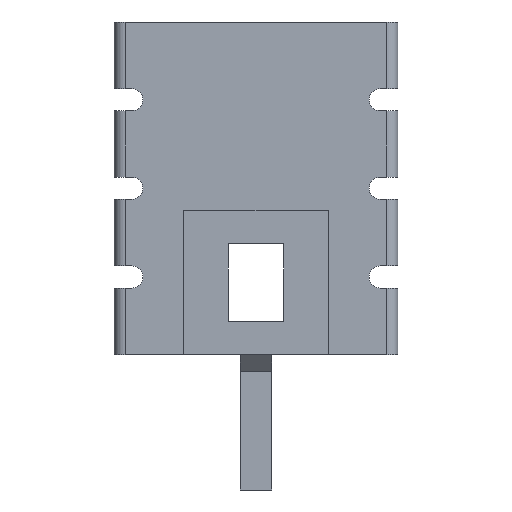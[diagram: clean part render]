
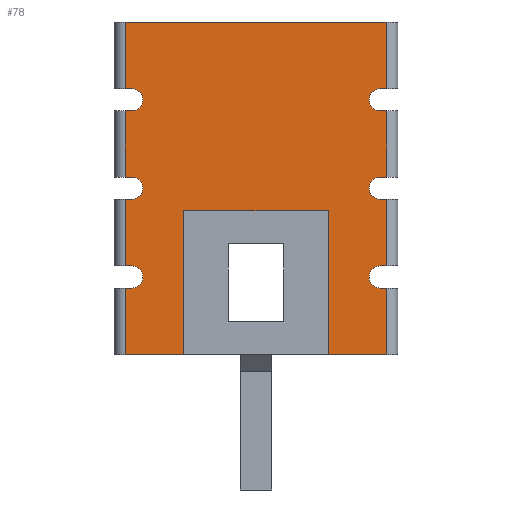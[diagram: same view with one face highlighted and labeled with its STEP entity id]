
A CAD part, front view. The second image highlights one B-rep face of the part: STEP entity #78.
In plain terms, the highlighted planar face has unit normal (0, -1, 0).
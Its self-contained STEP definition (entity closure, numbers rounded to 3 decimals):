
#78=ADVANCED_FACE('NONE',(#247,#248),#249,.F.);
#247=FACE_OUTER_BOUND('',#587,.T.);
#248=FACE_BOUND('',#588,.T.);
#249=PLANE('',#589);
#587=EDGE_LOOP('',(#927,#928,#929,#930,#931,#932,#933,#934,#935,#936,#937,#938,#939,#940,#941,#942,#943,#944,#945,#946,#947,#948,#949,#950,#951,#952,#953,#954));
#588=EDGE_LOOP('',(#955,#956,#957,#958));
#589=AXIS2_PLACEMENT_3D('',#959,#960,#961);
#927=ORIENTED_EDGE('',*,*,#2379,.T.);
#928=ORIENTED_EDGE('',*,*,#2380,.F.);
#929=ORIENTED_EDGE('',*,*,#2381,.F.);
#930=ORIENTED_EDGE('',*,*,#2382,.F.);
#931=ORIENTED_EDGE('',*,*,#2383,.F.);
#932=ORIENTED_EDGE('',*,*,#2384,.F.);
#933=ORIENTED_EDGE('',*,*,#2385,.F.);
#934=ORIENTED_EDGE('',*,*,#2386,.F.);
#935=ORIENTED_EDGE('',*,*,#2387,.F.);
#936=ORIENTED_EDGE('',*,*,#2388,.F.);
#937=ORIENTED_EDGE('',*,*,#2389,.F.);
#938=ORIENTED_EDGE('',*,*,#2390,.F.);
#939=ORIENTED_EDGE('',*,*,#2391,.F.);
#940=ORIENTED_EDGE('',*,*,#2392,.F.);
#941=ORIENTED_EDGE('',*,*,#2393,.T.);
#942=ORIENTED_EDGE('',*,*,#2394,.T.);
#943=ORIENTED_EDGE('',*,*,#2395,.T.);
#944=ORIENTED_EDGE('',*,*,#2396,.T.);
#945=ORIENTED_EDGE('',*,*,#2397,.T.);
#946=ORIENTED_EDGE('',*,*,#2398,.T.);
#947=ORIENTED_EDGE('',*,*,#2399,.T.);
#948=ORIENTED_EDGE('',*,*,#2400,.T.);
#949=ORIENTED_EDGE('',*,*,#2401,.T.);
#950=ORIENTED_EDGE('',*,*,#2402,.T.);
#951=ORIENTED_EDGE('',*,*,#2403,.T.);
#952=ORIENTED_EDGE('',*,*,#2404,.T.);
#953=ORIENTED_EDGE('',*,*,#2405,.T.);
#954=ORIENTED_EDGE('',*,*,#2406,.T.);
#955=ORIENTED_EDGE('',*,*,#2407,.T.);
#956=ORIENTED_EDGE('',*,*,#2408,.T.);
#957=ORIENTED_EDGE('',*,*,#2409,.T.);
#958=ORIENTED_EDGE('',*,*,#2410,.T.);
#959=CARTESIAN_POINT('',(0.0,0.0,19.0));
#960=DIRECTION('',(-0.0,1.0,0.0));
#961=DIRECTION('',(1.0,0.0,0.0));
#2379=EDGE_CURVE('NONE',#2853,#2854,#2855,.T.);
#2380=EDGE_CURVE('NONE',#2856,#2854,#2857,.T.);
#2381=EDGE_CURVE('NONE',#2858,#2856,#2859,.T.);
#2382=EDGE_CURVE('NONE',#2860,#2858,#2861,.T.);
#2383=EDGE_CURVE('NONE',#2862,#2860,#2863,.T.);
#2384=EDGE_CURVE('NONE',#2864,#2862,#2865,.T.);
#2385=EDGE_CURVE('NONE',#2866,#2864,#2867,.T.);
#2386=EDGE_CURVE('NONE',#2868,#2866,#2869,.T.);
#2387=EDGE_CURVE('NONE',#2870,#2868,#2871,.T.);
#2388=EDGE_CURVE('NONE',#2872,#2870,#2873,.T.);
#2389=EDGE_CURVE('NONE',#2874,#2872,#2875,.T.);
#2390=EDGE_CURVE('NONE',#2876,#2874,#2877,.T.);
#2391=EDGE_CURVE('NONE',#2878,#2876,#2879,.T.);
#2392=EDGE_CURVE('NONE',#2880,#2878,#2881,.T.);
#2393=EDGE_CURVE('NONE',#2880,#2882,#2883,.T.);
#2394=EDGE_CURVE('NONE',#2882,#2884,#2885,.T.);
#2395=EDGE_CURVE('NONE',#2884,#2886,#2887,.T.);
#2396=EDGE_CURVE('NONE',#2886,#2888,#2889,.T.);
#2397=EDGE_CURVE('NONE',#2888,#2890,#2891,.T.);
#2398=EDGE_CURVE('NONE',#2890,#2892,#2893,.T.);
#2399=EDGE_CURVE('NONE',#2892,#2894,#2895,.T.);
#2400=EDGE_CURVE('NONE',#2894,#2896,#2897,.T.);
#2401=EDGE_CURVE('NONE',#2896,#2898,#2899,.T.);
#2402=EDGE_CURVE('NONE',#2898,#2900,#2901,.T.);
#2403=EDGE_CURVE('NONE',#2900,#2902,#2903,.T.);
#2404=EDGE_CURVE('NONE',#2902,#2904,#2905,.T.);
#2405=EDGE_CURVE('NONE',#2904,#2906,#2907,.T.);
#2406=EDGE_CURVE('NONE',#2906,#2853,#2908,.T.);
#2407=EDGE_CURVE('NONE',#2909,#2910,#2911,.T.);
#2408=EDGE_CURVE('NONE',#2910,#2912,#2913,.T.);
#2409=EDGE_CURVE('NONE',#2912,#2914,#2915,.T.);
#2410=EDGE_CURVE('NONE',#2914,#2909,#2916,.T.);
#2853=VERTEX_POINT('NONE',#3643);
#2854=VERTEX_POINT('NONE',#3644);
#2855=LINE('',#3645,#3646);
#2856=VERTEX_POINT('NONE',#3647);
#2857=LINE('',#3648,#3649);
#2858=VERTEX_POINT('NONE',#3650);
#2859=LINE('',#3651,#3652);
#2860=VERTEX_POINT('NONE',#3653);
#2861=CIRCLE('',#3654,0.5);
#2862=VERTEX_POINT('NONE',#3655);
#2863=LINE('',#3656,#3657);
#2864=VERTEX_POINT('NONE',#3658);
#2865=LINE('',#3659,#3660);
#2866=VERTEX_POINT('NONE',#3661);
#2867=LINE('',#3662,#3663);
#2868=VERTEX_POINT('NONE',#3664);
#2869=CIRCLE('',#3665,0.5);
#2870=VERTEX_POINT('NONE',#3666);
#2871=LINE('',#3667,#3668);
#2872=VERTEX_POINT('NONE',#3669);
#2873=LINE('',#3670,#3671);
#2874=VERTEX_POINT('NONE',#3672);
#2875=LINE('',#3673,#3674);
#2876=VERTEX_POINT('NONE',#3675);
#2877=CIRCLE('',#3676,0.5);
#2878=VERTEX_POINT('NONE',#3677);
#2879=LINE('',#3678,#3679);
#2880=VERTEX_POINT('NONE',#3680);
#2881=LINE('',#3681,#3682);
#2882=VERTEX_POINT('NONE',#3683);
#2883=LINE('',#3684,#3685);
#2884=VERTEX_POINT('NONE',#3686);
#2885=LINE('',#3687,#3688);
#2886=VERTEX_POINT('NONE',#3689);
#2887=LINE('',#3690,#3691);
#2888=VERTEX_POINT('NONE',#3692);
#2889=CIRCLE('',#3693,0.5);
#2890=VERTEX_POINT('NONE',#3694);
#2891=LINE('',#3695,#3696);
#2892=VERTEX_POINT('NONE',#3697);
#2893=LINE('',#3698,#3699);
#2894=VERTEX_POINT('NONE',#3700);
#2895=LINE('',#3701,#3702);
#2896=VERTEX_POINT('NONE',#3703);
#2897=CIRCLE('',#3704,0.5);
#2898=VERTEX_POINT('NONE',#3705);
#2899=LINE('',#3706,#3707);
#2900=VERTEX_POINT('NONE',#3708);
#2901=LINE('',#3709,#3710);
#2902=VERTEX_POINT('NONE',#3711);
#2903=LINE('',#3712,#3713);
#2904=VERTEX_POINT('NONE',#3714);
#2905=CIRCLE('',#3715,0.5);
#2906=VERTEX_POINT('NONE',#3716);
#2907=LINE('',#3717,#3718);
#2908=LINE('',#3719,#3720);
#2909=VERTEX_POINT('NONE',#3721);
#2910=VERTEX_POINT('NONE',#3722);
#2911=LINE('',#3723,#3724);
#2912=VERTEX_POINT('NONE',#3725);
#2913=LINE('',#3726,#3727);
#2914=VERTEX_POINT('NONE',#3728);
#2915=LINE('',#3729,#3730);
#2916=LINE('',#3731,#3732);
#3643=CARTESIAN_POINT('',(12.3,0.0,15.0));
#3644=CARTESIAN_POINT('',(0.5,0.0,15.0));
#3645=CARTESIAN_POINT('',(12.0,0.0,15.0));
#3646=VECTOR('',#4799,1000.0);
#3647=CARTESIAN_POINT('',(0.5,0.0,12.0));
#3648=CARTESIAN_POINT('',(0.5,0.0,19.0));
#3649=VECTOR('',#4800,1000.0);
#3650=CARTESIAN_POINT('',(0.8,0.0,12.0));
#3651=CARTESIAN_POINT('',(-0.402,0.0,12.0));
#3652=VECTOR('',#4801,1000.0);
#3653=CARTESIAN_POINT('',(0.8,0.0,11.0));
#3654=AXIS2_PLACEMENT_3D('',#4802,#4803,#4804);
#3655=CARTESIAN_POINT('',(0.5,0.0,11.0));
#3656=CARTESIAN_POINT('',(0.8,0.0,11.0));
#3657=VECTOR('',#4805,1000.0);
#3658=CARTESIAN_POINT('',(0.5,0.0,8.0));
#3659=CARTESIAN_POINT('',(0.5,0.0,19.0));
#3660=VECTOR('',#4806,1000.0);
#3661=CARTESIAN_POINT('',(0.8,0.0,8.0));
#3662=CARTESIAN_POINT('',(-0.402,0.0,8.0));
#3663=VECTOR('',#4807,1000.0);
#3664=CARTESIAN_POINT('',(0.8,0.0,7.0));
#3665=AXIS2_PLACEMENT_3D('',#4808,#4809,#4810);
#3666=CARTESIAN_POINT('',(0.5,0.0,7.0));
#3667=CARTESIAN_POINT('',(0.8,0.0,7.0));
#3668=VECTOR('',#4811,1000.0);
#3669=CARTESIAN_POINT('',(0.5,0.0,4.0));
#3670=CARTESIAN_POINT('',(0.5,0.0,19.0));
#3671=VECTOR('',#4812,1000.0);
#3672=CARTESIAN_POINT('',(0.8,0.0,4.0));
#3673=CARTESIAN_POINT('',(-0.402,0.0,4.0));
#3674=VECTOR('',#4813,1000.0);
#3675=CARTESIAN_POINT('',(0.8,0.0,3.0));
#3676=AXIS2_PLACEMENT_3D('',#4814,#4815,#4816);
#3677=CARTESIAN_POINT('',(0.5,0.0,3.0));
#3678=CARTESIAN_POINT('',(0.8,0.0,3.0));
#3679=VECTOR('',#4817,1000.0);
#3680=CARTESIAN_POINT('',(0.5,0.0,0.0));
#3681=CARTESIAN_POINT('',(0.5,0.0,19.0));
#3682=VECTOR('',#4818,1000.0);
#3683=CARTESIAN_POINT('',(12.3,0.0,0.0));
#3684=CARTESIAN_POINT('',(0.0,0.0,0.0));
#3685=VECTOR('',#4819,1000.0);
#3686=CARTESIAN_POINT('',(12.3,0.0,3.0));
#3687=CARTESIAN_POINT('',(12.3,0.0,19.0));
#3688=VECTOR('',#4820,1000.0);
#3689=CARTESIAN_POINT('',(12.0,0.0,3.0));
#3690=CARTESIAN_POINT('',(12.0,0.0,3.0));
#3691=VECTOR('',#4821,1000.0);
#3692=CARTESIAN_POINT('',(12.0,0.0,4.0));
#3693=AXIS2_PLACEMENT_3D('',#4822,#4823,#4824);
#3694=CARTESIAN_POINT('',(12.3,0.0,4.0));
#3695=CARTESIAN_POINT('',(13.202,0.0,4.0));
#3696=VECTOR('',#4825,1000.0);
#3697=CARTESIAN_POINT('',(12.3,0.0,7.0));
#3698=CARTESIAN_POINT('',(12.3,0.0,19.0));
#3699=VECTOR('',#4826,1000.0);
#3700=CARTESIAN_POINT('',(12.0,0.0,7.0));
#3701=CARTESIAN_POINT('',(12.0,0.0,7.0));
#3702=VECTOR('',#4827,1000.0);
#3703=CARTESIAN_POINT('',(12.0,0.0,8.0));
#3704=AXIS2_PLACEMENT_3D('',#4828,#4829,#4830);
#3705=CARTESIAN_POINT('',(12.3,0.0,8.0));
#3706=CARTESIAN_POINT('',(13.202,0.0,8.0));
#3707=VECTOR('',#4831,1000.0);
#3708=CARTESIAN_POINT('',(12.3,0.0,11.0));
#3709=CARTESIAN_POINT('',(12.3,0.0,19.0));
#3710=VECTOR('',#4832,1000.0);
#3711=CARTESIAN_POINT('',(12.0,0.0,11.0));
#3712=CARTESIAN_POINT('',(12.0,0.0,11.0));
#3713=VECTOR('',#4833,1000.0);
#3714=CARTESIAN_POINT('',(12.0,0.0,12.0));
#3715=AXIS2_PLACEMENT_3D('',#4834,#4835,#4836);
#3716=CARTESIAN_POINT('',(12.3,0.0,12.0));
#3717=CARTESIAN_POINT('',(13.202,0.0,12.0));
#3718=VECTOR('',#4837,1000.0);
#3719=CARTESIAN_POINT('',(12.3,0.0,19.0));
#3720=VECTOR('',#4838,1000.0);
#3721=CARTESIAN_POINT('',(7.65,0.0,1.5));
#3722=CARTESIAN_POINT('',(5.15,0.0,1.5));
#3723=CARTESIAN_POINT('',(5.15,0.0,1.5));
#3724=VECTOR('',#4839,1000.0);
#3725=CARTESIAN_POINT('',(5.15,0.0,5.0));
#3726=CARTESIAN_POINT('',(5.15,0.0,1.5));
#3727=VECTOR('',#4840,1000.0);
#3728=CARTESIAN_POINT('',(7.65,0.0,5.0));
#3729=CARTESIAN_POINT('',(5.15,0.0,5.0));
#3730=VECTOR('',#4841,1000.0);
#3731=CARTESIAN_POINT('',(7.65,0.0,1.5));
#3732=VECTOR('',#4842,1000.0);
#4799=DIRECTION('',(-1.0,-0.0,0.));
#4800=DIRECTION('',(-0.0,-0.0,1.0));
#4801=DIRECTION('',(-1.0,0.0,0.));
#4802=CARTESIAN_POINT('',(0.8,0.0,11.5));
#4803=DIRECTION('',(0.0,-1.0,0.0));
#4804=DIRECTION('',(0.0,0.0,1.0));
#4805=DIRECTION('',(1.0,-0.0,0.));
#4806=DIRECTION('',(-0.0,-0.0,1.0));
#4807=DIRECTION('',(-1.0,0.0,0.));
#4808=CARTESIAN_POINT('',(0.8,0.0,7.5));
#4809=DIRECTION('',(0.0,-1.0,0.0));
#4810=DIRECTION('',(0.0,0.0,1.0));
#4811=DIRECTION('',(1.0,-0.0,0.));
#4812=DIRECTION('',(-0.0,-0.0,1.0));
#4813=DIRECTION('',(-1.0,0.0,0.));
#4814=CARTESIAN_POINT('',(0.8,0.0,3.5));
#4815=DIRECTION('',(0.0,-1.0,0.0));
#4816=DIRECTION('',(0.0,0.0,1.0));
#4817=DIRECTION('',(1.0,-0.0,0.));
#4818=DIRECTION('',(-0.0,-0.0,1.0));
#4819=DIRECTION('',(1.0,0.0,0.0));
#4820=DIRECTION('',(-0.0,-0.0,1.0));
#4821=DIRECTION('',(-1.0,-0.0,0.));
#4822=CARTESIAN_POINT('',(12.0,0.0,3.5));
#4823=DIRECTION('',(0.0,1.0,0.0));
#4824=DIRECTION('',(0.0,0.0,1.0));
#4825=DIRECTION('',(1.0,-0.0,0.));
#4826=DIRECTION('',(-0.0,-0.0,1.0));
#4827=DIRECTION('',(-1.0,-0.0,0.));
#4828=CARTESIAN_POINT('',(12.0,0.0,7.5));
#4829=DIRECTION('',(0.0,1.0,0.0));
#4830=DIRECTION('',(0.0,0.0,1.0));
#4831=DIRECTION('',(1.0,-0.0,0.));
#4832=DIRECTION('',(-0.0,-0.0,1.0));
#4833=DIRECTION('',(-1.0,-0.0,0.));
#4834=CARTESIAN_POINT('',(12.0,0.0,11.5));
#4835=DIRECTION('',(0.0,1.0,0.0));
#4836=DIRECTION('',(0.0,0.0,1.0));
#4837=DIRECTION('',(1.0,-0.0,0.));
#4838=DIRECTION('',(-0.0,-0.0,1.0));
#4839=DIRECTION('',(-1.0,-0.0,-0.0));
#4840=DIRECTION('',(0.0,0.0,1.0));
#4841=DIRECTION('',(1.0,0.0,0.0));
#4842=DIRECTION('',(-0.0,-0.0,-1.0));
